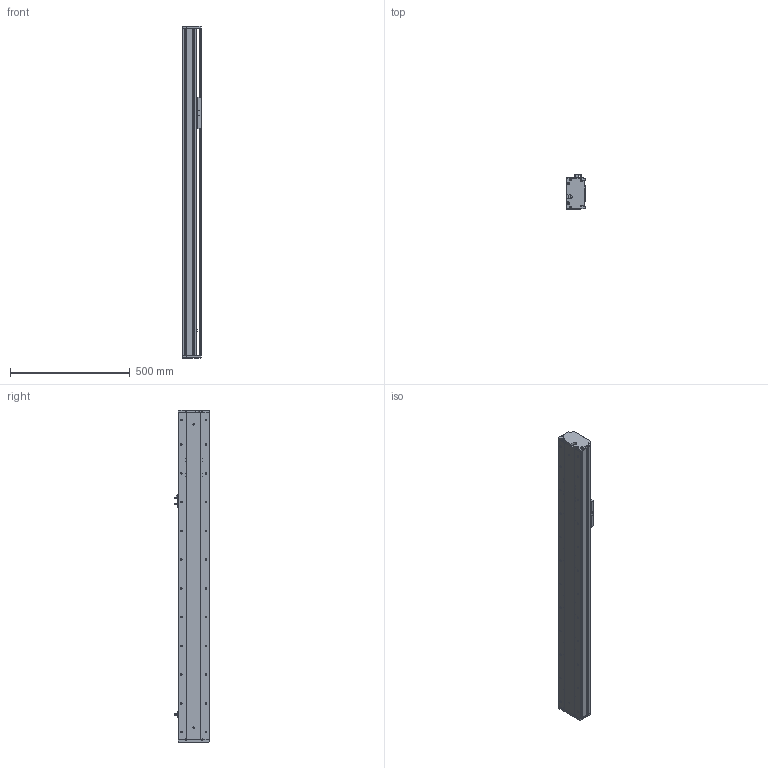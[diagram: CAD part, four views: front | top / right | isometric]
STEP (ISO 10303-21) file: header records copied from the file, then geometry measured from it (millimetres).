
FILE_DESCRIPTION (( 'STEP AP214' ), '1' );
FILE_NAME ('KSD130S-P2010-S900-M-CM.STEP', '2019-09-10T07:01:21', ( '微软用户' ), ( '微软中国' ), 'SwSTEP 2.0', 'SolidWorks 2014', '' );
FILE_SCHEMA (( 'AUTOMOTIVE_DESIGN' ));
Length unit declared in the file: millimetre
Products named in the file (8): 130宽马达安装板半封闭-内装; U倰嫖萇EEㄜSX672; 覜茼え100遵圉猾敕; 130宽盖板半封闭丝杠内装-900行程; 130宽滚珠丝杆安装板半封闭-内装-20丝杆; 130宽端盖半封闭-内装; 130宽底板半封闭丝杠内装-900行程; KSD130S-P2010-S900-M-CM
Assembly tree (9 placements, depth 2):
  KSD130S-P2010-S900-M-CM
    130宽底板半封闭丝杠内装-900行程
    130宽端盖半封闭-内装
    130宽滚珠丝杆安装板半封闭-内装-20丝杆
    130宽盖板半封闭丝杠内装-900行程
    覜茼え100遵圉猾敕
    U倰嫖萇EEㄜSX672  x3
    130宽马达安装板半封闭-内装
Bounding box: 80 x 143.7 x 1385 mm (x, y, z)
Volume: 4098957.3 mm3; surface area: 1258509 mm2
Topology: 9 solids, 9 shells, 1165 faces, 3424 edges, 2168 vertices
Faces by surface type: cylinder 536, plane 459, cone 170
Entity records: 38640 total; most frequent: CARTESIAN_POINT 7637, DIRECTION 5590, ORIENTED_EDGE 5504, EDGE_CURVE 2752, AXIS2_PLACEMENT_3D 2045, VERTEX_POINT 1792, LINE 1500, VECTOR 1500
